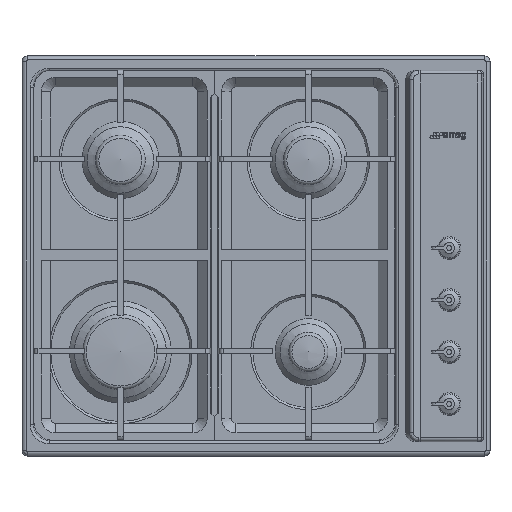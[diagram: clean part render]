
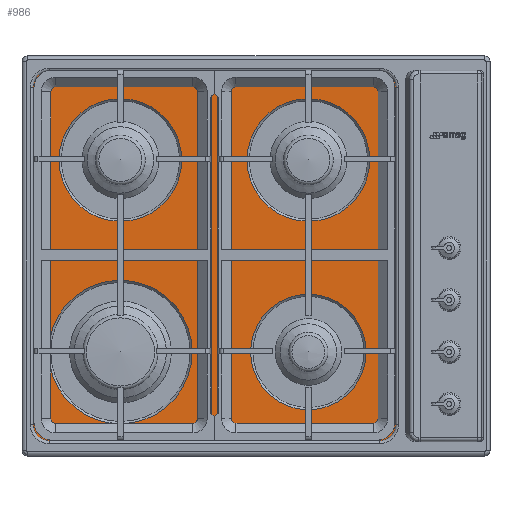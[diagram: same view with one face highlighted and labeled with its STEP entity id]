
A CAD part, top view. The second image highlights one B-rep face of the part: STEP entity #986.
In plain terms, the highlighted planar face has unit normal (0, 0, 1).
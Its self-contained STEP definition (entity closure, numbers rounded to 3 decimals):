
#595=FACE_BOUND('',#2462,.T.);
#596=FACE_BOUND('',#2463,.T.);
#597=FACE_BOUND('',#2464,.T.);
#598=FACE_BOUND('',#2465,.T.);
#599=FACE_BOUND('',#2466,.T.);
#986=ADVANCED_FACE('',(#595,#596,#597,#598,#599),#1512,.T.);
#1512=PLANE('',#10627);
#2462=EDGE_LOOP('',(#3990));
#2463=EDGE_LOOP('',(#3991));
#2464=EDGE_LOOP('',(#3992));
#2465=EDGE_LOOP('',(#3993));
#2466=EDGE_LOOP('',(#3994,#3995,#3996,#3997,#3998,#3999,#4000,#4001));
#3990=ORIENTED_EDGE('',*,*,#7084,.T.);
#3991=ORIENTED_EDGE('',*,*,#7085,.T.);
#3992=ORIENTED_EDGE('',*,*,#7086,.T.);
#3993=ORIENTED_EDGE('',*,*,#7087,.T.);
#3994=ORIENTED_EDGE('',*,*,#7063,.T.);
#3995=ORIENTED_EDGE('',*,*,#7066,.F.);
#3996=ORIENTED_EDGE('',*,*,#7069,.T.);
#3997=ORIENTED_EDGE('',*,*,#7072,.F.);
#3998=ORIENTED_EDGE('',*,*,#7075,.T.);
#3999=ORIENTED_EDGE('',*,*,#7078,.F.);
#4000=ORIENTED_EDGE('',*,*,#7081,.T.);
#4001=ORIENTED_EDGE('',*,*,#7083,.F.);
#5985=VERTEX_POINT('',#15244);
#5987=VERTEX_POINT('',#15248);
#5989=VERTEX_POINT('',#15254);
#5991=VERTEX_POINT('',#15260);
#5993=VERTEX_POINT('',#15266);
#5995=VERTEX_POINT('',#15272);
#5997=VERTEX_POINT('',#15278);
#5999=VERTEX_POINT('',#15284);
#6000=VERTEX_POINT('',#15291);
#6001=VERTEX_POINT('',#15293);
#6002=VERTEX_POINT('',#15295);
#6003=VERTEX_POINT('',#15297);
#7063=EDGE_CURVE('',#5985,#5987,#8783,.T.);
#7066=EDGE_CURVE('',#5989,#5987,#7991,.T.);
#7069=EDGE_CURVE('',#5989,#5991,#8787,.T.);
#7072=EDGE_CURVE('',#5993,#5991,#7993,.T.);
#7075=EDGE_CURVE('',#5993,#5995,#8791,.T.);
#7078=EDGE_CURVE('',#5997,#5995,#7995,.T.);
#7081=EDGE_CURVE('',#5997,#5999,#8795,.T.);
#7083=EDGE_CURVE('',#5985,#5999,#7997,.T.);
#7084=EDGE_CURVE('',#6000,#6000,#7998,.T.);
#7085=EDGE_CURVE('',#6001,#6001,#7999,.T.);
#7086=EDGE_CURVE('',#6002,#6002,#8000,.T.);
#7087=EDGE_CURVE('',#6003,#6003,#8001,.T.);
#7991=CIRCLE('',#10609,20.);
#7993=CIRCLE('',#10613,20.);
#7995=CIRCLE('',#10617,20.);
#7997=CIRCLE('',#10621,20.);
#7998=CIRCLE('',#10623,76.7);
#7999=CIRCLE('',#10624,72.2);
#8000=CIRCLE('',#10625,89.7);
#8001=CIRCLE('',#10626,76.7);
#8783=LINE('',#15249,#9726);
#8787=LINE('',#15261,#9730);
#8791=LINE('',#15273,#9734);
#8795=LINE('',#15285,#9738);
#9726=VECTOR('',#12330,1.);
#9730=VECTOR('',#12342,1.);
#9734=VECTOR('',#12354,1.);
#9738=VECTOR('',#12366,1.);
#10609=AXIS2_PLACEMENT_3D('',#15255,#12336,#12337);
#10613=AXIS2_PLACEMENT_3D('',#15267,#12348,#12349);
#10617=AXIS2_PLACEMENT_3D('',#15279,#12360,#12361);
#10621=AXIS2_PLACEMENT_3D('',#15288,#12371,#12372);
#10623=AXIS2_PLACEMENT_3D('',#15290,#12375,#12376);
#10624=AXIS2_PLACEMENT_3D('',#15292,#12377,#12378);
#10625=AXIS2_PLACEMENT_3D('',#15294,#12379,#12380);
#10626=AXIS2_PLACEMENT_3D('',#15296,#12381,#12382);
#10627=AXIS2_PLACEMENT_3D('',#15298,#12383,#12384);
#12330=DIRECTION('',(0.,1.,0.));
#12336=DIRECTION('',(0.,0.,-1.));
#12337=DIRECTION('',(-1.,0.,0.));
#12342=DIRECTION('',(-1.,0.,0.));
#12348=DIRECTION('',(0.,0.,-1.));
#12349=DIRECTION('',(-1.,0.,0.));
#12354=DIRECTION('',(0.,-1.,0.));
#12360=DIRECTION('',(0.,0.,-1.));
#12361=DIRECTION('',(-1.,0.,0.));
#12366=DIRECTION('',(1.,0.,0.));
#12371=DIRECTION('',(0.,0.,-1.));
#12372=DIRECTION('',(-1.,0.,0.));
#12375=DIRECTION('',(0.,0.,-1.));
#12376=DIRECTION('',(-1.,0.,0.));
#12377=DIRECTION('',(0.,0.,-1.));
#12378=DIRECTION('',(-1.,0.,0.));
#12379=DIRECTION('',(0.,0.,-1.));
#12380=DIRECTION('',(-1.,0.,0.));
#12381=DIRECTION('',(0.,0.,-1.));
#12382=DIRECTION('',(-1.,0.,0.));
#12383=DIRECTION('',(0.,0.,1.));
#12384=DIRECTION('',(-1.,0.,0.));
#15244=CARTESIAN_POINT('',(421.5,78.5,3.5));
#15248=CARTESIAN_POINT('',(421.5,500.5,3.5));
#15249=CARTESIAN_POINT('',(421.5,78.5,3.5));
#15254=CARTESIAN_POINT('',(401.5,520.5,3.5));
#15255=CARTESIAN_POINT('',(401.5,500.5,3.5));
#15260=CARTESIAN_POINT('',(-11.5,520.5,3.5));
#15261=CARTESIAN_POINT('',(401.5,520.5,3.5));
#15266=CARTESIAN_POINT('',(-31.5,500.5,3.5));
#15267=CARTESIAN_POINT('',(-11.5,500.5,3.5));
#15272=CARTESIAN_POINT('',(-31.5,78.5,3.5));
#15273=CARTESIAN_POINT('',(-31.5,500.5,3.5));
#15278=CARTESIAN_POINT('',(-11.5,58.5,3.5));
#15279=CARTESIAN_POINT('',(-11.5,78.5,3.5));
#15284=CARTESIAN_POINT('',(401.5,58.5,3.5));
#15285=CARTESIAN_POINT('',(-11.5,58.5,3.5));
#15288=CARTESIAN_POINT('',(401.5,78.5,3.5));
#15290=CARTESIAN_POINT('',(312.5,409.5,3.5));
#15291=CARTESIAN_POINT('',(235.8,409.5,3.5));
#15292=CARTESIAN_POINT('',(312.5,169.5,3.5));
#15293=CARTESIAN_POINT('',(240.3,169.5,3.5));
#15294=CARTESIAN_POINT('',(77.5,169.5,3.5));
#15295=CARTESIAN_POINT('',(-12.2,169.5,3.5));
#15296=CARTESIAN_POINT('',(77.5,409.5,3.5));
#15297=CARTESIAN_POINT('',(0.8,409.5,3.5));
#15298=CARTESIAN_POINT('',(401.5,500.5,3.5));
